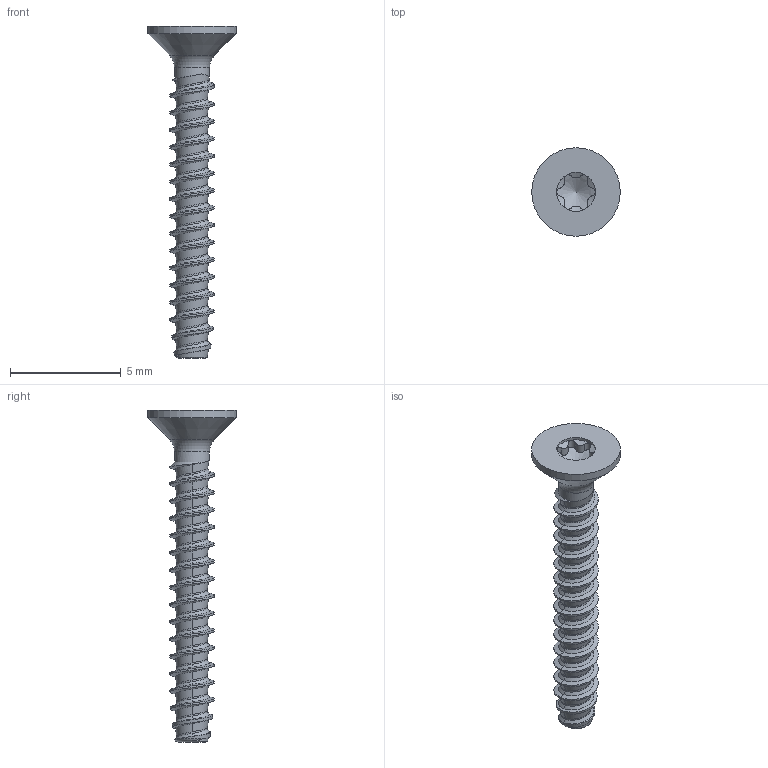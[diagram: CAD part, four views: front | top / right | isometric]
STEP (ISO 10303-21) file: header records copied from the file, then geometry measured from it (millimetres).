
FILE_DESCRIPTION(/* description */ (''),/* implementation_level */ '2;1');
FILE_NAME(/* name */ 'KN6041-STSplus-20x15-T6.step',/* time_stamp */ '2017-10-12T09:09:41+02:00',/* author */ (''),/* organization */ (''),/* preprocessor_version */ 'ST-DEVELOPER v16',/* originating_system */ 'SIEMENS PLM Software NX 10.0',/* authorisation */ '');
FILE_SCHEMA (('AUTOMOTIVE_DESIGN { 1 0 10303 214 3 1 1 1 }'));
Length unit declared in the file: millimetre
Products named in the file (1): KN6041-STSplus-20x15-T6
Bounding box: 4 x 4 x 15 mm (x, y, z)
Volume: 36.7 mm3; surface area: 135.2 mm2
Topology: 1 solids, 1 shells, 95 faces, 243 edges, 150 vertices
Faces by surface type: bspline 69, cylinder 17, cone 5, torus 2, plane 2
Full cylindrical faces by diameter (mm): 1.58 x1, 1.77 x1, 4 x1
Entity records: 7265 total; most frequent: CARTESIAN_POINT 5517, ORIENTED_EDGE 456, EDGE_CURVE 228, DIRECTION 152, VERTEX_POINT 144, B_SPLINE_CURVE_WITH_KNOTS 141, EDGE_LOOP 103, ADVANCED_FACE 95
